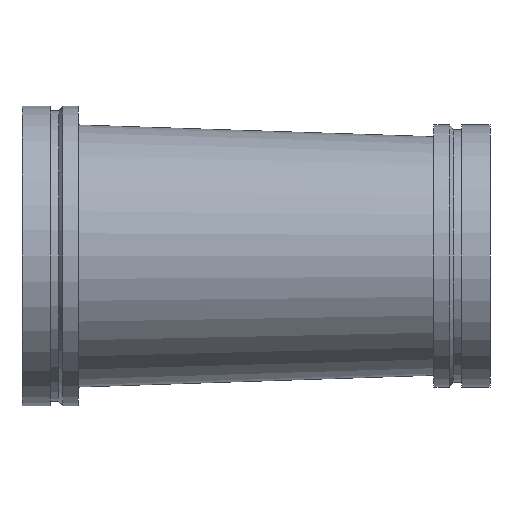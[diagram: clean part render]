
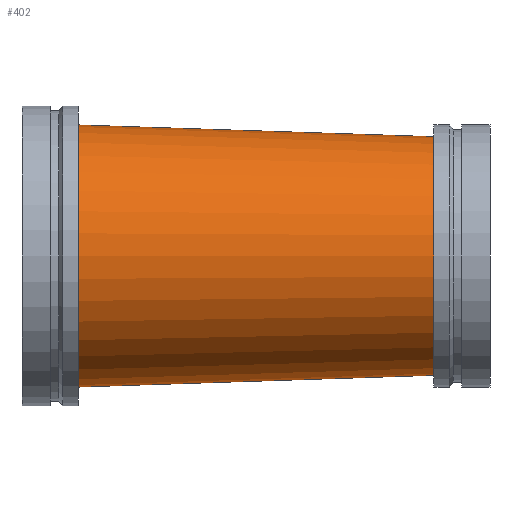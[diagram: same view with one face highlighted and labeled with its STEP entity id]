
A CAD part, front view. The second image highlights one B-rep face of the part: STEP entity #402.
In plain terms, the highlighted free-form (B-spline) face has degree [1, 2] with [2, 9] control points.
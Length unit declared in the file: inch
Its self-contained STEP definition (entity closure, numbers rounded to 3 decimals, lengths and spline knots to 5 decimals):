
#46=B_SPLINE_CURVE_WITH_KNOTS('',1,(#777,#778),.UNSPECIFIED.,.F.,.F.,(2,
2),(-2.71725,-0.00004),.UNSPECIFIED.);
#48=(
BOUNDED_SURFACE()
B_SPLINE_SURFACE(1,2,((#759,#760,#761,#762,#763,#764,#765,#766,#767),(#768,
#769,#770,#771,#772,#773,#774,#775,#776)),.UNSPECIFIED.,.F.,.T.,.F.)
B_SPLINE_SURFACE_WITH_KNOTS((2,2),(3,2,2,2,3),(-0.03286,2.74714),
(-3.14159,-1.5708,0.,1.5708,3.14159),
 .UNSPECIFIED.)
GEOMETRIC_REPRESENTATION_ITEM()
RATIONAL_B_SPLINE_SURFACE(((1.,0.707,1.,0.707,1.,
0.707,1.,0.707,1.),(1.,0.707,1.,0.707,
1.,0.707,1.,0.707,1.)))
REPRESENTATION_ITEM('')
SURFACE()
);
#98=FACE_OUTER_BOUND('',#120,.T.);
#120=EDGE_LOOP('',(#333,#334,#335,#336,#337,#338));
#129=CIRCLE('',#430,6.375);
#130=CIRCLE('',#431,6.375);
#153=CIRCLE('',#465,7.);
#154=CIRCLE('',#466,7.);
#169=VERTEX_POINT('',#652);
#170=VERTEX_POINT('',#653);
#193=VERTEX_POINT('',#719);
#194=VERTEX_POINT('',#720);
#209=EDGE_CURVE('',#169,#170,#129,.T.);
#210=EDGE_CURVE('',#170,#169,#130,.T.);
#241=EDGE_CURVE('',#193,#194,#153,.T.);
#242=EDGE_CURVE('',#194,#193,#154,.T.);
#252=EDGE_CURVE('',#170,#194,#46,.T.);
#333=ORIENTED_EDGE('',*,*,#209,.T.);
#334=ORIENTED_EDGE('',*,*,#252,.T.);
#335=ORIENTED_EDGE('',*,*,#242,.T.);
#336=ORIENTED_EDGE('',*,*,#241,.T.);
#337=ORIENTED_EDGE('',*,*,#252,.F.);
#338=ORIENTED_EDGE('',*,*,#210,.T.);
#402=ADVANCED_FACE('',(#98),#48,.F.);
#430=AXIS2_PLACEMENT_3D('',#654,#504,#505);
#431=AXIS2_PLACEMENT_3D('',#655,#506,#507);
#465=AXIS2_PLACEMENT_3D('',#721,#582,#583);
#466=AXIS2_PLACEMENT_3D('',#722,#584,#585);
#504=DIRECTION('center_axis',(-1.,0.,0.));
#505=DIRECTION('ref_axis',(0.,-1.,0.));
#506=DIRECTION('center_axis',(-1.,0.,0.));
#507=DIRECTION('ref_axis',(0.,-1.,0.));
#582=DIRECTION('center_axis',(1.,0.,0.));
#583=DIRECTION('ref_axis',(0.,1.,0.));
#584=DIRECTION('center_axis',(1.,0.,0.));
#585=DIRECTION('ref_axis',(0.,1.,0.));
#652=CARTESIAN_POINT('',(22.,-7.,0.));
#653=CARTESIAN_POINT('',(22.,-0.63188,6.375));
#654=CARTESIAN_POINT('Origin',(22.,-0.625,0.));
#655=CARTESIAN_POINT('Origin',(22.,-0.625,0.));
#719=CARTESIAN_POINT('',(3.,7.,0.));
#720=CARTESIAN_POINT('',(3.,-0.00756,7.));
#721=CARTESIAN_POINT('Origin',(3.,0.,0.));
#722=CARTESIAN_POINT('Origin',(3.,0.,0.));
#759=CARTESIAN_POINT('Ctrl Pts',(2.76999,0.,7.00756));
#760=CARTESIAN_POINT('Ctrl Pts',(2.53997,-7.,7.00756));
#761=CARTESIAN_POINT('Ctrl Pts',(2.53997,-7.,0.));
#762=CARTESIAN_POINT('Ctrl Pts',(2.53997,-7.,-7.00756));
#763=CARTESIAN_POINT('Ctrl Pts',(2.76999,0.,
-7.00756));
#764=CARTESIAN_POINT('Ctrl Pts',(3.,7.,-7.00756));
#765=CARTESIAN_POINT('Ctrl Pts',(3.,7.,0.));
#766=CARTESIAN_POINT('Ctrl Pts',(3.,7.,7.00756));
#767=CARTESIAN_POINT('Ctrl Pts',(2.76999,0.,7.00756));
#768=CARTESIAN_POINT('Ctrl Pts',(22.20903,-0.63875,6.36812));
#769=CARTESIAN_POINT('Ctrl Pts',(22.,-7.,6.36812));
#770=CARTESIAN_POINT('Ctrl Pts',(22.,-7.,0.));
#771=CARTESIAN_POINT('Ctrl Pts',(22.,-7.,-6.36812));
#772=CARTESIAN_POINT('Ctrl Pts',(22.20903,-0.63875,-6.36812));
#773=CARTESIAN_POINT('Ctrl Pts',(22.41805,5.7225,-6.36812));
#774=CARTESIAN_POINT('Ctrl Pts',(22.41805,5.7225,0.));
#775=CARTESIAN_POINT('Ctrl Pts',(22.41805,5.7225,6.36812));
#776=CARTESIAN_POINT('Ctrl Pts',(22.20903,-0.63875,6.36812));
#777=CARTESIAN_POINT('Ctrl Pts',(22.,-0.63188,6.375));
#778=CARTESIAN_POINT('Ctrl Pts',(3.,-0.00756,
7.));
